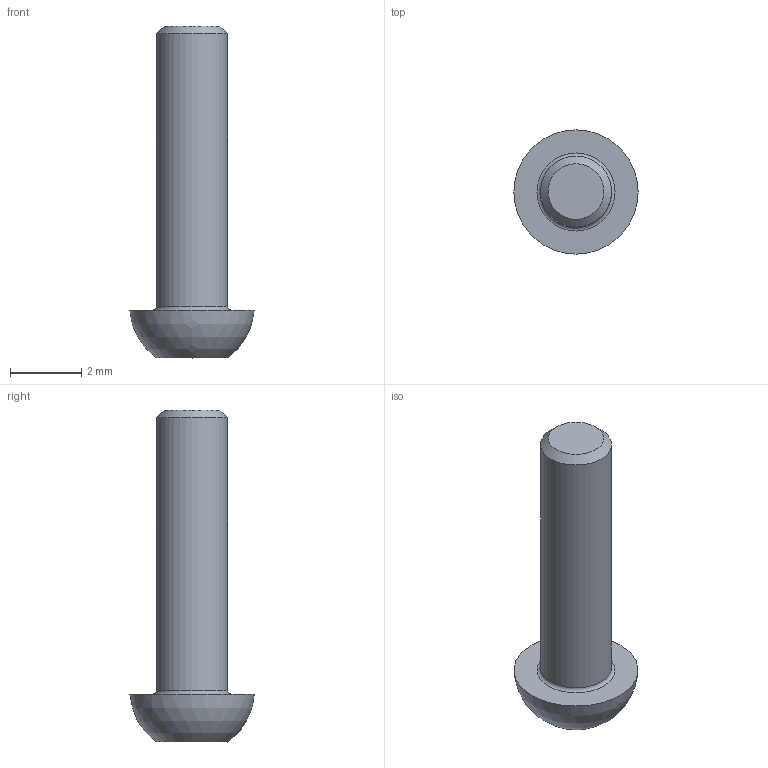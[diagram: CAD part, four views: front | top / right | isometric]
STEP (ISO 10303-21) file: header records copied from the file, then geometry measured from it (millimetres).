
FILE_DESCRIPTION(/* description */ ('STEP AP242 Edition 2','CAx-IF Rec.Pracs.---Representation and Presentation of Product Manufacturing Information (PMI)---4.0---2014-10-13','CAx-IF Rec.Pracs.---3D Tessellated Geometry---0.4---2014-09-14','2;1','CAx-IF Rec.Pracs.---User Defined Attributes---1.5---2016-08-15'),/* implementation_level */ '2;1');
FILE_NAME(/* name */ 'Final Build - M2x0.4 x 8',/* time_stamp */ '2026-08-31T23:26:13Z',/* author */ (''),/* organization */ (''),/* preprocessor_version */ 'ST-DEVELOPER v20',/* originating_system */ 'ONSHAPE BY PTC INC, 1.220',/* authorisation */ ' ');
FILE_SCHEMA (('AP242_MANAGED_MODEL_BASED_3D_ENGINEERING_MIM_LF { 1 0 10303 442 3 1 4 }'));
Length unit declared in the file: metre
Products named in the file (1): M2x0.4 x 8
Bounding box: 3.5 x 3.5 x 9.35 mm (x, y, z)
Volume: 33.5 mm3; surface area: 81 mm2
Topology: 1 solids, 1 shells, 20 faces, 43 edges, 26 vertices
Faces by surface type: plane 15, cone 2, torus 1, cylinder 1, sphere 1
Full cylindrical faces by diameter (mm): 2 x1
Entity records: 518 total; most frequent: DIRECTION 90, CARTESIAN_POINT 82, ORIENTED_EDGE 72, EDGE_CURVE 36, AXIS2_PLACEMENT_3D 33, FACE_BOUND 27, EDGE_LOOP 26, VERTEX_POINT 25
